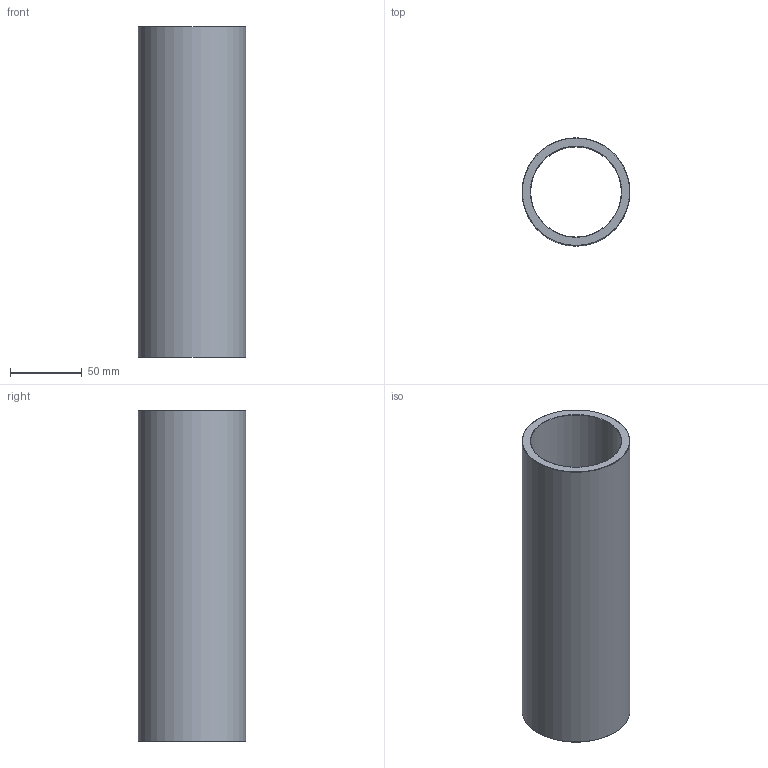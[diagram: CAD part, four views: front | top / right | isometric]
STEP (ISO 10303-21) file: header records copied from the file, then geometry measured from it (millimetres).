
FILE_DESCRIPTION(('STEP AP203'),'1');
FILE_NAME('C:/Users/Rodrigo/Desktop/GA6.063.230-1.step','2016-11-08T14:43:07',(' '),(' '),'Spatial InterOp 3D',' ',' ');
FILE_SCHEMA(('CONFIG_CONTROL_DESIGN'));
Length unit declared in the file: millimetre
Products named in the file (1): 1
Bounding box: 75 x 75 x 230 mm (x, y, z)
Volume: 299125.1 mm3; surface area: 102213.8 mm2
Topology: 1 solids, 1 shells, 8 faces, 14 edges, 8 vertices
Faces by surface type: cone 4, cylinder 2, plane 2
Full cylindrical faces by diameter (mm): 63 x1, 75 x1
Entity records: 212 total; most frequent: DIRECTION 34, CARTESIAN_POINT 25, AXIS2_PLACEMENT_3D 17, EDGE_LOOP 16, ORIENTED_EDGE 16, FACE_OUTER_BOUND 10, ADVANCED_FACE 8, EDGE_CURVE 8
